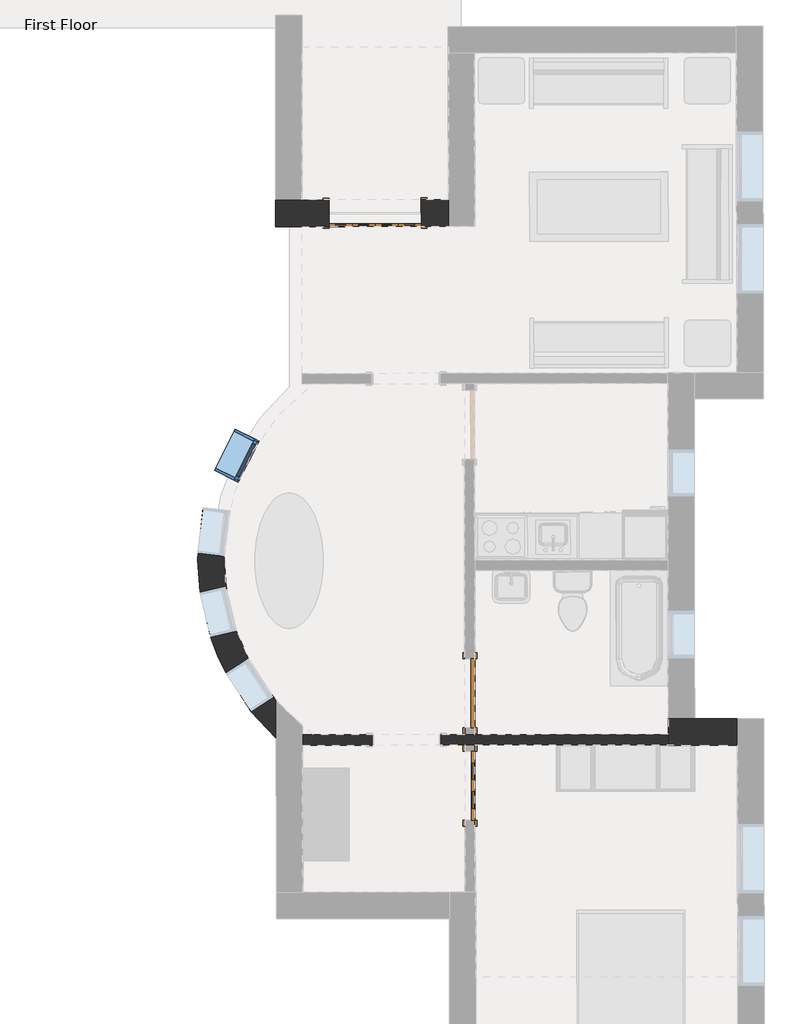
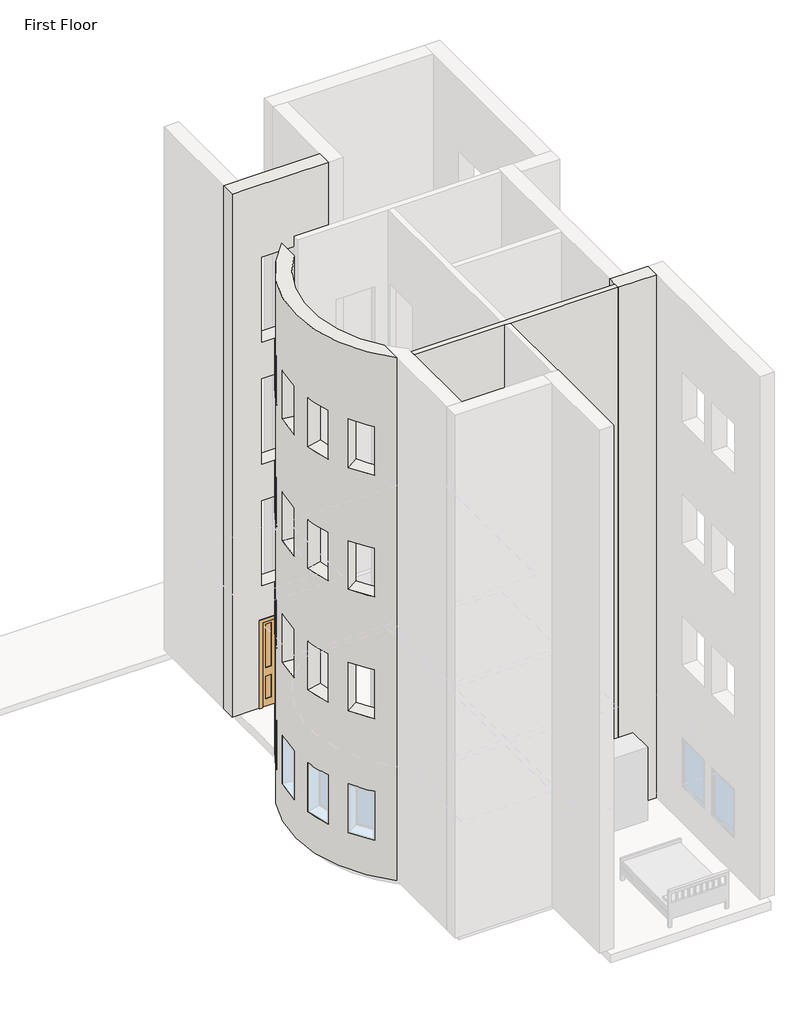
# One storey, part 12 of 23: 4 walls, 3 doors, 1 window.
"""IFC4 building model written with IfcOpenShell, lengths in millimetres."""

from ifc_helpers import new_model, si_unit, frame, origin, place, context, project, spatial, polyline, circle_curve, faceted_brep, transform, mapped, element, save
from ifc_brep_helpers import plane_surface, cylinder_surface, revolved_surface, advanced_brep
from components import m_bifold_4_panel_1220_x_2134mm_cde6dea2, m_single_decorative_2_0915_x_2134mm_0b11df3f, m_single_flush_0915_x_2134mm_08e0827a, m_fixed_0610_x_1220mm_2c28ef1d

model = new_model("IFC4")

# Units and contexts
model_context = context("Model", 3, world=origin())
ifc_project = project(units=[si_unit("LENGTHUNIT", "METRE", prefix="MILLI")], contexts=[model_context])

# Site, building, storey
site = spatial("IfcSite", under=ifc_project)
building = spatial("IfcBuilding", under=site)
storey = spatial("IfcBuildingStorey", under=building, Name="First Floor", Elevation=0.0)

# Doors
placement = place(None, origin())
m_bifold_4_panel_1220_x_2134mm_shape = m_bifold_4_panel_1220_x_2134mm_cde6dea2(model_context)
element("IfcDoor", 1, ObjectType="M_Bifold-4 Panel : 1220 x 2134mm", at=placement, inside=storey, context=model_context, shape_type="MappedRepresentation", body=[
    mapped(m_bifold_4_panel_1220_x_2134mm_shape, transform((-9050.8373063, -8240.6820888, 0.0), x_axis=(0.9999989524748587, 0.0014474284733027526, 0.0), y_axis=(-0.0014474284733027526, 0.9999989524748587, 0.0), z_axis=(0.0, 0.0, 1.0))),
])
m_single_decorative_2_0915_x_2134mm_shape = m_single_decorative_2_0915_x_2134mm_0b11df3f(model_context)
element("IfcDoor", 2, ObjectType="M_Single-Decorative 2 : 0915 x 2134mm", at=placement, inside=storey, context=model_context, shape_type="MappedRepresentation", body=[
    mapped(m_single_decorative_2_0915_x_2134mm_shape, transform((-7796.8898976, -15803.1250115, 0.0), x_axis=(-0.0014474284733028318, 0.9999989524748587, 0.0), y_axis=(-0.9999989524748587, -0.0014474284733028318, 0.0), z_axis=(0.0, 0.0, 1.0))),
])
m_single_flush_0915_x_2134mm_shape = m_single_flush_0915_x_2134mm_08e0827a(model_context)
element("IfcDoor", 3, ObjectType="M_Single-Flush : 0915 x 2134mm", at=placement, inside=storey, context=model_context, shape_type="MappedRepresentation", body=[
    mapped(m_single_flush_0915_x_2134mm_shape, transform((-7798.6557603, -14583.1262895, 0.0), x_axis=(0.0014474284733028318, -0.9999989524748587, 0.0), y_axis=(0.9999989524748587, 0.0014474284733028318, 0.0), z_axis=(0.0, 0.0, 1.0))),
])

# Walls
element("IfcWall", 4, ObjectType="Exterior - Brick on Mtl. Stud", at=placement, inside=storey, context=model_context, shape_type="Brep", body=[
    faceted_brep([(-4263.1691469, -14916.759275, 0.0), (-4827.5685557, -14917.5762036, 0.0), (-5177.5681891, -14918.0828036, 0.0), (-5177.5681891, -14918.0828036, 13107.0), (-4827.5685557, -14917.5762036, 13107.0), (-4263.1691469, -14916.759275, 13107.0), (-4262.662547, -15266.7589083, 0.0), (-4262.662547, -15266.7589083, 13107.0), (-5177.0615891, -15268.0824369, 13107.0), (-5177.0615891, -15268.0824369, 0.0), (-5177.072083, -15260.8324445, 0.0), (-5177.2682095, -15125.3325865, 0.0), (-5177.2682095, -15125.3325865, 13107.0), (-5177.072083, -15260.8324445, 13107.0)], [[[0, 1, 2, 3, 4, 5]], [[6, 7, 8, 9]], [[2, 1, 0, 6, 9, 10, 11]], [[5, 4, 3, 12, 13, 8, 7]], [[0, 5, 7, 6]], [[3, 2, 11, 10, 9, 8, 13, 12]]]),
])
element("IfcWall", 5, ObjectType="Exterior - Brick on Mtl. Stud", at=placement, inside=storey, context=model_context, shape_type="Brep", body=[
    faceted_brep([(-10369.0892257, -8067.5899829, 13107.0), (-10019.0916203, -8067.0833858, 13107.0), (-8083.0916203, -8064.2811614, 13107.0), (-8083.0916203, -8064.2811614, 0.0), (-8441.0912453, -8064.7993408, 0.0), (-8441.0912453, -8064.7993408, 2134.0), (-9661.0899673, -8066.5652035, 2134.0), (-9661.0899673, -8066.5652035, 0.0), (-10019.0916203, -8067.0833858, 0.0), (-10184.0894195, -8067.3222086, 0.0), (-10369.0892257, -8067.5899829, 0.0), (-8441.0912453, -8064.7993408, 9144.0), (-8441.0912453, -8064.7993408, 11278.0), (-9661.0899673, -8066.5652035, 11278.0), (-9661.0899673, -8066.5652035, 9144.0), (-8441.0912453, -8064.7993408, 3048.0), (-8441.0912453, -8064.7993408, 5182.0), (-9661.0899673, -8066.5652035, 5182.0), (-9661.0899673, -8066.5652035, 3048.0), (-8441.0912453, -8064.7993408, 6096.0), (-8441.0912453, -8064.7993408, 8230.0), (-9661.0899673, -8066.5652035, 8230.0), (-9661.0899673, -8066.5652035, 6096.0), (-8082.5850204, -8414.2807948, 13107.0), (-10018.5829924, -8417.0830163, 13107.0), (-10368.5826257, -8417.5896162, 13107.0), (-10368.5826257, -8417.5896162, 0.0), (-10183.5828195, -8417.321842, 0.0), (-10018.5829924, -8417.0830163, 0.0), (-9660.5833674, -8416.5648369, 0.0), (-9660.5833674, -8416.5648369, 2134.0), (-8440.5846453, -8414.7989741, 2134.0), (-8440.5846453, -8414.7989741, 0.0), (-8082.5850204, -8414.2807948, 0.0), (-8440.5846453, -8414.7989741, 9144.0), (-9660.5833674, -8416.5648369, 9144.0), (-9660.5833674, -8416.5648369, 11278.0), (-8440.5846453, -8414.7989741, 11278.0), (-8440.5846453, -8414.7989741, 3048.0), (-9660.5833674, -8416.5648369, 3048.0), (-9660.5833674, -8416.5648369, 5182.0), (-8440.5846453, -8414.7989741, 5182.0), (-8440.5846453, -8414.7989741, 6096.0), (-9660.5833674, -8416.5648369, 6096.0), (-9660.5833674, -8416.5648369, 8230.0), (-8440.5846453, -8414.7989741, 8230.0), (-8440.823471, -8249.799147, 0.0), (-9660.8221931, -8251.5650097, 0.0), (-10368.8214514, -8252.5897891, 0.0), (-10183.8216452, -8252.3220148, 0.0), (-8082.8238461, -8249.2809676, 0.0)], [[[0, 1, 2, 3, 4, 5, 6, 7, 8, 9, 10], [11, 12, 13, 14], [15, 16, 17, 18], [19, 20, 21, 22]], [[23, 24, 25, 26, 27, 28, 29, 30, 31, 32, 33], [34, 35, 36, 37], [38, 39, 40, 41], [42, 43, 44, 45]], [[2, 1, 0, 25, 24, 23]], [[31, 5, 4, 46, 32]], [[5, 31, 30, 6]], [[6, 30, 29, 47, 7]], [[27, 26, 48, 49]], [[49, 9, 8, 7, 47]], [[3, 50, 46, 4]], [[10, 9, 49, 48]], [[12, 11, 34, 37]], [[13, 12, 37, 36]], [[14, 13, 36, 35]], [[11, 14, 35, 34]], [[16, 15, 38, 41]], [[17, 16, 41, 40]], [[18, 17, 40, 39]], [[15, 18, 39, 38]], [[20, 19, 42, 45]], [[21, 20, 45, 44]], [[22, 21, 44, 43]], [[19, 22, 43, 42]], [[3, 2, 23, 33, 50]], [[0, 10, 48, 26, 25]], [[27, 49, 47, 29, 28]], [[50, 33, 32, 46]]]),
])
element("IfcWall", 6, ObjectType="Exterior - Brick on Mtl. Stud", at=placement, inside=storey, context=model_context, shape_type="AdvancedBrep", body=[
    advanced_brep(
    [(-10365.6395377, -10450.9093937, 13107.0), (-10358.7970277, -15178.2606268, 13107.0), (-10359.5284893, -14672.9086878, 13107.0), (-10364.9080761, -10956.2613328, 13107.0), (-10358.7970277, -15178.2606268, 0.0), (-10365.6395377, -10450.9093937, 0.0), (-10364.9080761, -10956.2613328, 0.0), (-10359.5284893, -14672.9086878, 0.0), (-10688.4725524, -14824.0876564, 915.0), (-11022.6046276, -14313.7389949, 915.0), (-11022.6046276, -14313.7389949, 2135.0), (-10688.4725524, -14824.0876564, 2135.0), (-11225.0349817, -13841.7363021, 2135.0), (-11225.0349817, -13841.7363021, 915.0), (-11364.4669047, -13247.8855306, 915.0), (-11364.4669047, -13247.8855306, 2135.0), (-11321.1690093, -12129.3871103, 915.0), (-11321.1690093, -12129.3871103, 2135.0), (-11393.2547862, -12735.1128244, 2135.0), (-11393.2547862, -12735.1128244, 915.0), (-10897.9333065, -11093.1511508, 915.0), (-10897.9333065, -11093.1511508, 2135.0), (-11172.8421746, -11637.6923468, 2135.0), (-11172.8421746, -11637.6923468, 915.0), (-11321.1690093, -12129.3871103, 10059.0), (-11321.1690093, -12129.3871103, 11279.0), (-11393.2547862, -12735.1128244, 11279.0), (-11393.2547862, -12735.1128244, 10059.0), (-10897.9333065, -11093.1511508, 10059.0), (-10897.9333065, -11093.1511508, 11279.0), (-11172.8421746, -11637.6923468, 11279.0), (-11172.8421746, -11637.6923468, 10059.0), (-11225.0349817, -13841.7363021, 11279.0), (-11225.0349817, -13841.7363021, 10059.0), (-11364.4669047, -13247.8855306, 10059.0), (-11364.4669047, -13247.8855306, 11279.0), (-10688.4725524, -14824.0876564, 11279.0), (-10688.4725524, -14824.0876564, 10059.0), (-11022.6046276, -14313.7389949, 10059.0), (-11022.6046276, -14313.7389949, 11279.0), (-11321.1690093, -12129.3871103, 3963.0), (-11321.1690093, -12129.3871103, 5183.0), (-11393.2547862, -12735.1128244, 5183.0), (-11393.2547862, -12735.1128244, 3963.0), (-10897.9333065, -11093.1511508, 3963.0), (-10897.9333065, -11093.1511508, 5183.0), (-11172.8421746, -11637.6923468, 5183.0), (-11172.8421746, -11637.6923468, 3963.0), (-11225.0349817, -13841.7363021, 5183.0), (-11225.0349817, -13841.7363021, 3963.0), (-11364.4669047, -13247.8855306, 3963.0), (-11364.4669047, -13247.8855306, 5183.0), (-10688.4725524, -14824.0876564, 5183.0), (-10688.4725524, -14824.0876564, 3963.0), (-11022.6046276, -14313.7389949, 3963.0), (-11022.6046276, -14313.7389949, 5183.0), (-11321.1690093, -12129.3871103, 7011.0), (-11321.1690093, -12129.3871103, 8231.0), (-11393.2547862, -12735.1128244, 8231.0), (-11393.2547862, -12735.1128244, 7011.0), (-10897.9333065, -11093.1511508, 7011.0), (-10897.9333065, -11093.1511508, 8231.0), (-11172.8421746, -11637.6923468, 8231.0), (-11172.8421746, -11637.6923468, 7011.0), (-11225.0349817, -13841.7363021, 8231.0), (-11225.0349817, -13841.7363021, 7011.0), (-11364.4669047, -13247.8855306, 7011.0), (-11364.4669047, -13247.8855306, 8231.0), (-10688.4725524, -14824.0876564, 8231.0), (-10688.4725524, -14824.0876564, 7011.0), (-11022.6046276, -14313.7389949, 7011.0), (-11022.6046276, -14313.7389949, 8231.0), (-10394.1674377, -14631.4021728, 915.0), (-10394.1674377, -14631.4021728, 2135.0), (-10728.2995129, -14121.0535112, 2135.0), (-10728.2995129, -14121.0535112, 915.0), (-10882.5763205, -13761.3294525, 915.0), (-10882.5763205, -13761.3294525, 2135.0), (-11022.0082435, -13167.4786809, 2135.0), (-11022.0082435, -13167.4786809, 915.0), (-10971.8623702, -12170.9571474, 2135.0), (-10971.8623702, -12170.9571474, 915.0), (-11043.948147, -12776.6828616, 915.0), (-11043.948147, -12776.6828616, 2135.0), (-10583.9102253, -11251.6841147, 2135.0), (-10583.9102253, -11251.6841147, 915.0), (-10858.8190935, -11796.2253108, 915.0), (-10858.8190935, -11796.2253108, 2135.0), (-10971.8623702, -12170.9571474, 11279.0), (-10971.8623702, -12170.9571474, 10059.0), (-11043.948147, -12776.6828616, 10059.0), (-11043.948147, -12776.6828616, 11279.0), (-10583.9102253, -11251.6841147, 11279.0), (-10583.9102253, -11251.6841147, 10059.0), (-10858.8190935, -11796.2253108, 10059.0), (-10858.8190935, -11796.2253108, 11279.0), (-10882.5763205, -13761.3294525, 10059.0), (-10882.5763205, -13761.3294525, 11279.0), (-11022.0082435, -13167.4786809, 11279.0), (-11022.0082435, -13167.4786809, 10059.0), (-10394.1674377, -14631.4021728, 10059.0), (-10394.1674377, -14631.4021728, 11279.0), (-10728.2995129, -14121.0535112, 11279.0), (-10728.2995129, -14121.0535112, 10059.0), (-10971.8623702, -12170.9571474, 5183.0), (-10971.8623702, -12170.9571474, 3963.0), (-11043.948147, -12776.6828616, 3963.0), (-11043.948147, -12776.6828616, 5183.0), (-10583.9102253, -11251.6841147, 5183.0), (-10583.9102253, -11251.6841147, 3963.0), (-10858.8190935, -11796.2253108, 3963.0), (-10858.8190935, -11796.2253108, 5183.0), (-10882.5763205, -13761.3294525, 3963.0), (-10882.5763205, -13761.3294525, 5183.0), (-11022.0082435, -13167.4786809, 5183.0), (-11022.0082435, -13167.4786809, 3963.0), (-10394.1674377, -14631.4021728, 3963.0), (-10394.1674377, -14631.4021728, 5183.0), (-10728.2995129, -14121.0535112, 5183.0), (-10728.2995129, -14121.0535112, 3963.0), (-10971.8623702, -12170.9571474, 8231.0), (-10971.8623702, -12170.9571474, 7011.0), (-11043.948147, -12776.6828616, 7011.0), (-11043.948147, -12776.6828616, 8231.0), (-10583.9102253, -11251.6841147, 8231.0), (-10583.9102253, -11251.6841147, 7011.0), (-10858.8190935, -11796.2253108, 7011.0), (-10858.8190935, -11796.2253108, 8231.0), (-10882.5763205, -13761.3294525, 7011.0), (-10882.5763205, -13761.3294525, 8231.0), (-11022.0082435, -13167.4786809, 8231.0), (-11022.0082435, -13167.4786809, 7011.0), (-10394.1674377, -14631.4021728, 7011.0), (-10394.1674377, -14631.4021728, 8231.0), (-10728.2995129, -14121.0535112, 8231.0), (-10728.2995129, -14121.0535112, 7011.0)],
    [
        (0, 1, circle_curve(frame((-8171.1580789, -12811.413604, 13107.0), z_axis=(0.0, 0.0, 1.0), x_axis=(-0.0014474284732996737, 0.9999989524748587, 0.0)), 3223.0)),
        (1, 2),
        (2, 3, circle_curve(frame((-8171.1580789, -12811.413604, 13107.0), z_axis=(0.0, 0.0, -1.0), x_axis=(-0.0014474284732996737, 0.9999989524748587, 0.0)), 2873.0)),
        (3, 0),
        (4, 5, circle_curve(frame((-8171.1580789, -12811.413604, 0.0), z_axis=(0.0, 0.0, -1.0), x_axis=(-0.0014474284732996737, 0.9999989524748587, 0.0)), 3223.0)),
        (5, 6),
        (6, 7, circle_curve(frame((-8171.1580789, -12811.413604, 0.0), z_axis=(0.0, 0.0, 1.0), x_axis=(-0.0014474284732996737, 0.9999989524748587, 0.0)), 2873.0)),
        (7, 4),
        (0, 5),
        (4, 1),
        (8, 9, circle_curve(frame((-8171.1580789, -12811.413604, 915.0), z_axis=(0.0, 0.0, -1.0), x_axis=(-0.0014474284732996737, 0.9999989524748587, 0.0)), 3223.0)),
        (9, 10),
        (10, 11, circle_curve(frame((-8171.1580789, -12811.413604, 2135.0), z_axis=(0.0, 0.0, 1.0), x_axis=(-0.0014474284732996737, 0.9999989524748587, 0.0)), 3223.0)),
        (11, 8),
        (12, 13),
        (13, 14, circle_curve(frame((-8171.1580789, -12811.413604, 915.0), z_axis=(0.0, 0.0, -1.0), x_axis=(-0.0014474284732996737, 0.9999989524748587, 0.0)), 3223.0)),
        (14, 15),
        (15, 12, circle_curve(frame((-8171.1580789, -12811.413604, 2135.0), z_axis=(0.0, 0.0, 1.0), x_axis=(-0.0014474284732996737, 0.9999989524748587, 0.0)), 3223.0)),
        (16, 17),
        (17, 18, circle_curve(frame((-8171.1580789, -12811.413604, 2135.0), z_axis=(0.0, 0.0, 1.0), x_axis=(-0.0014474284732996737, 0.9999989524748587, 0.0)), 3223.0)),
        (18, 19),
        (19, 16, circle_curve(frame((-8171.1580789, -12811.413604, 915.0), z_axis=(0.0, 0.0, -1.0), x_axis=(-0.0014474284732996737, 0.9999989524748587, 0.0)), 3223.0)),
        (20, 21),
        (21, 22, circle_curve(frame((-8171.1580789, -12811.413604, 2135.0), z_axis=(0.0, 0.0, 1.0), x_axis=(-0.0014474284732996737, 0.9999989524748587, 0.0)), 3223.0)),
        (22, 23),
        (23, 20, circle_curve(frame((-8171.1580789, -12811.413604, 915.0), z_axis=(0.0, 0.0, -1.0), x_axis=(-0.0014474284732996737, 0.9999989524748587, 0.0)), 3223.0)),
        (24, 25),
        (25, 26, circle_curve(frame((-8171.1580789, -12811.413604, 11279.0), z_axis=(0.0, 0.0, 1.0), x_axis=(-0.0014474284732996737, 0.9999989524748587, 0.0)), 3223.0)),
        (26, 27),
        (27, 24, circle_curve(frame((-8171.1580789, -12811.413604, 10059.0), z_axis=(0.0, 0.0, -1.0), x_axis=(-0.0014474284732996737, 0.9999989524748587, 0.0)), 3223.0)),
        (28, 29),
        (29, 30, circle_curve(frame((-8171.1580789, -12811.413604, 11279.0), z_axis=(0.0, 0.0, 1.0), x_axis=(-0.0014474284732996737, 0.9999989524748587, 0.0)), 3223.0)),
        (30, 31),
        (31, 28, circle_curve(frame((-8171.1580789, -12811.413604, 10059.0), z_axis=(0.0, 0.0, -1.0), x_axis=(-0.0014474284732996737, 0.9999989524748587, 0.0)), 3223.0)),
        (32, 33),
        (33, 34, circle_curve(frame((-8171.1580789, -12811.413604, 10059.0), z_axis=(0.0, 0.0, -1.0), x_axis=(-0.0014474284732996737, 0.9999989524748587, 0.0)), 3223.0)),
        (34, 35),
        (35, 32, circle_curve(frame((-8171.1580789, -12811.413604, 11279.0), z_axis=(0.0, 0.0, 1.0), x_axis=(-0.0014474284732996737, 0.9999989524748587, 0.0)), 3223.0)),
        (36, 37),
        (37, 38, circle_curve(frame((-8171.1580789, -12811.413604, 10059.0), z_axis=(0.0, 0.0, -1.0), x_axis=(-0.0014474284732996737, 0.9999989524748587, 0.0)), 3223.0)),
        (38, 39),
        (39, 36, circle_curve(frame((-8171.1580789, -12811.413604, 11279.0), z_axis=(0.0, 0.0, 1.0), x_axis=(-0.0014474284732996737, 0.9999989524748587, 0.0)), 3223.0)),
        (40, 41),
        (41, 42, circle_curve(frame((-8171.1580789, -12811.413604, 5183.0), z_axis=(0.0, 0.0, 1.0), x_axis=(-0.0014474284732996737, 0.9999989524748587, 0.0)), 3223.0)),
        (42, 43),
        (43, 40, circle_curve(frame((-8171.1580789, -12811.413604, 3963.0), z_axis=(0.0, 0.0, -1.0), x_axis=(-0.0014474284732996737, 0.9999989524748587, 0.0)), 3223.0)),
        (44, 45),
        (45, 46, circle_curve(frame((-8171.1580789, -12811.413604, 5183.0), z_axis=(0.0, 0.0, 1.0), x_axis=(-0.0014474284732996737, 0.9999989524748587, 0.0)), 3223.0)),
        (46, 47),
        (47, 44, circle_curve(frame((-8171.1580789, -12811.413604, 3963.0), z_axis=(0.0, 0.0, -1.0), x_axis=(-0.0014474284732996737, 0.9999989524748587, 0.0)), 3223.0)),
        (48, 49),
        (49, 50, circle_curve(frame((-8171.1580789, -12811.413604, 3963.0), z_axis=(0.0, 0.0, -1.0), x_axis=(-0.0014474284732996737, 0.9999989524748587, 0.0)), 3223.0)),
        (50, 51),
        (51, 48, circle_curve(frame((-8171.1580789, -12811.413604, 5183.0), z_axis=(0.0, 0.0, 1.0), x_axis=(-0.0014474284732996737, 0.9999989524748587, 0.0)), 3223.0)),
        (52, 53),
        (53, 54, circle_curve(frame((-8171.1580789, -12811.413604, 3963.0), z_axis=(0.0, 0.0, -1.0), x_axis=(-0.0014474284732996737, 0.9999989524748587, 0.0)), 3223.0)),
        (54, 55),
        (55, 52, circle_curve(frame((-8171.1580789, -12811.413604, 5183.0), z_axis=(0.0, 0.0, 1.0), x_axis=(-0.0014474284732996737, 0.9999989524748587, 0.0)), 3223.0)),
        (56, 57),
        (57, 58, circle_curve(frame((-8171.1580789, -12811.413604, 8231.0), z_axis=(0.0, 0.0, 1.0), x_axis=(-0.0014474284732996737, 0.9999989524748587, 0.0)), 3223.0)),
        (58, 59),
        (59, 56, circle_curve(frame((-8171.1580789, -12811.413604, 7011.0), z_axis=(0.0, 0.0, -1.0), x_axis=(-0.0014474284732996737, 0.9999989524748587, 0.0)), 3223.0)),
        (60, 61),
        (61, 62, circle_curve(frame((-8171.1580789, -12811.413604, 8231.0), z_axis=(0.0, 0.0, 1.0), x_axis=(-0.0014474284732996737, 0.9999989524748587, 0.0)), 3223.0)),
        (62, 63),
        (63, 60, circle_curve(frame((-8171.1580789, -12811.413604, 7011.0), z_axis=(0.0, 0.0, -1.0), x_axis=(-0.0014474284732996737, 0.9999989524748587, 0.0)), 3223.0)),
        (64, 65),
        (65, 66, circle_curve(frame((-8171.1580789, -12811.413604, 7011.0), z_axis=(0.0, 0.0, -1.0), x_axis=(-0.0014474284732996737, 0.9999989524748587, 0.0)), 3223.0)),
        (66, 67),
        (67, 64, circle_curve(frame((-8171.1580789, -12811.413604, 8231.0), z_axis=(0.0, 0.0, 1.0), x_axis=(-0.0014474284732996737, 0.9999989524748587, 0.0)), 3223.0)),
        (68, 69),
        (69, 70, circle_curve(frame((-8171.1580789, -12811.413604, 7011.0), z_axis=(0.0, 0.0, -1.0), x_axis=(-0.0014474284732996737, 0.9999989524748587, 0.0)), 3223.0)),
        (70, 71),
        (71, 68, circle_curve(frame((-8171.1580789, -12811.413604, 8231.0), z_axis=(0.0, 0.0, 1.0), x_axis=(-0.0014474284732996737, 0.9999989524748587, 0.0)), 3223.0)),
        (2, 7),
        (6, 3),
        (72, 73),
        (73, 74, circle_curve(frame((-8171.1580789, -12811.413604, 2135.0), z_axis=(0.0, 0.0, -1.0), x_axis=(-0.0014474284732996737, 0.9999989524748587, 0.0)), 2873.0)),
        (74, 75),
        (75, 72, circle_curve(frame((-8171.1580789, -12811.413604, 915.0), z_axis=(0.0, 0.0, 1.0), x_axis=(-0.0014474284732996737, 0.9999989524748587, 0.0)), 2873.0)),
        (76, 77),
        (77, 78, circle_curve(frame((-8171.1580789, -12811.413604, 2135.0), z_axis=(0.0, 0.0, -1.0), x_axis=(-0.0014474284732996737, 0.9999989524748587, 0.0)), 2873.0)),
        (78, 79),
        (79, 76, circle_curve(frame((-8171.1580789, -12811.413604, 915.0), z_axis=(0.0, 0.0, 1.0), x_axis=(-0.0014474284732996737, 0.9999989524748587, 0.0)), 2873.0)),
        (80, 81),
        (81, 82, circle_curve(frame((-8171.1580789, -12811.413604, 915.0), z_axis=(0.0, 0.0, 1.0), x_axis=(-0.0014474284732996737, 0.9999989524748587, 0.0)), 2873.0)),
        (82, 83),
        (83, 80, circle_curve(frame((-8171.1580789, -12811.413604, 2135.0), z_axis=(0.0, 0.0, -1.0), x_axis=(-0.0014474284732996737, 0.9999989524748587, 0.0)), 2873.0)),
        (84, 85),
        (85, 86, circle_curve(frame((-8171.1580789, -12811.413604, 915.0), z_axis=(0.0, 0.0, 1.0), x_axis=(-0.0014474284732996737, 0.9999989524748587, 0.0)), 2873.0)),
        (86, 87),
        (87, 84, circle_curve(frame((-8171.1580789, -12811.413604, 2135.0), z_axis=(0.0, 0.0, -1.0), x_axis=(-0.0014474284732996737, 0.9999989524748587, 0.0)), 2873.0)),
        (88, 89),
        (89, 90, circle_curve(frame((-8171.1580789, -12811.413604, 10059.0), z_axis=(0.0, 0.0, 1.0), x_axis=(-0.0014474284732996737, 0.9999989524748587, 0.0)), 2873.0)),
        (90, 91),
        (91, 88, circle_curve(frame((-8171.1580789, -12811.413604, 11279.0), z_axis=(0.0, 0.0, -1.0), x_axis=(-0.0014474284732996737, 0.9999989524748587, 0.0)), 2873.0)),
        (92, 93),
        (93, 94, circle_curve(frame((-8171.1580789, -12811.413604, 10059.0), z_axis=(0.0, 0.0, 1.0), x_axis=(-0.0014474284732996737, 0.9999989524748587, 0.0)), 2873.0)),
        (94, 95),
        (95, 92, circle_curve(frame((-8171.1580789, -12811.413604, 11279.0), z_axis=(0.0, 0.0, -1.0), x_axis=(-0.0014474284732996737, 0.9999989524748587, 0.0)), 2873.0)),
        (96, 97),
        (97, 98, circle_curve(frame((-8171.1580789, -12811.413604, 11279.0), z_axis=(0.0, 0.0, -1.0), x_axis=(-0.0014474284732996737, 0.9999989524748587, 0.0)), 2873.0)),
        (98, 99),
        (99, 96, circle_curve(frame((-8171.1580789, -12811.413604, 10059.0), z_axis=(0.0, 0.0, 1.0), x_axis=(-0.0014474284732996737, 0.9999989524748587, 0.0)), 2873.0)),
        (100, 101),
        (101, 102, circle_curve(frame((-8171.1580789, -12811.413604, 11279.0), z_axis=(0.0, 0.0, -1.0), x_axis=(-0.0014474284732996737, 0.9999989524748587, 0.0)), 2873.0)),
        (102, 103),
        (103, 100, circle_curve(frame((-8171.1580789, -12811.413604, 10059.0), z_axis=(0.0, 0.0, 1.0), x_axis=(-0.0014474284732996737, 0.9999989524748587, 0.0)), 2873.0)),
        (104, 105),
        (105, 106, circle_curve(frame((-8171.1580789, -12811.413604, 3963.0), z_axis=(0.0, 0.0, 1.0), x_axis=(-0.0014474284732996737, 0.9999989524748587, 0.0)), 2873.0)),
        (106, 107),
        (107, 104, circle_curve(frame((-8171.1580789, -12811.413604, 5183.0), z_axis=(0.0, 0.0, -1.0), x_axis=(-0.0014474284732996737, 0.9999989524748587, 0.0)), 2873.0)),
        (108, 109),
        (109, 110, circle_curve(frame((-8171.1580789, -12811.413604, 3963.0), z_axis=(0.0, 0.0, 1.0), x_axis=(-0.0014474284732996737, 0.9999989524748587, 0.0)), 2873.0)),
        (110, 111),
        (111, 108, circle_curve(frame((-8171.1580789, -12811.413604, 5183.0), z_axis=(0.0, 0.0, -1.0), x_axis=(-0.0014474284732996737, 0.9999989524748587, 0.0)), 2873.0)),
        (112, 113),
        (113, 114, circle_curve(frame((-8171.1580789, -12811.413604, 5183.0), z_axis=(0.0, 0.0, -1.0), x_axis=(-0.0014474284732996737, 0.9999989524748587, 0.0)), 2873.0)),
        (114, 115),
        (115, 112, circle_curve(frame((-8171.1580789, -12811.413604, 3963.0), z_axis=(0.0, 0.0, 1.0), x_axis=(-0.0014474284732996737, 0.9999989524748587, 0.0)), 2873.0)),
        (116, 117),
        (117, 118, circle_curve(frame((-8171.1580789, -12811.413604, 5183.0), z_axis=(0.0, 0.0, -1.0), x_axis=(-0.0014474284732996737, 0.9999989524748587, 0.0)), 2873.0)),
        (118, 119),
        (119, 116, circle_curve(frame((-8171.1580789, -12811.413604, 3963.0), z_axis=(0.0, 0.0, 1.0), x_axis=(-0.0014474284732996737, 0.9999989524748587, 0.0)), 2873.0)),
        (120, 121),
        (121, 122, circle_curve(frame((-8171.1580789, -12811.413604, 7011.0), z_axis=(0.0, 0.0, 1.0), x_axis=(-0.0014474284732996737, 0.9999989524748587, 0.0)), 2873.0)),
        (122, 123),
        (123, 120, circle_curve(frame((-8171.1580789, -12811.413604, 8231.0), z_axis=(0.0, 0.0, -1.0), x_axis=(-0.0014474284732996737, 0.9999989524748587, 0.0)), 2873.0)),
        (124, 125),
        (125, 126, circle_curve(frame((-8171.1580789, -12811.413604, 7011.0), z_axis=(0.0, 0.0, 1.0), x_axis=(-0.0014474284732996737, 0.9999989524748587, 0.0)), 2873.0)),
        (126, 127),
        (127, 124, circle_curve(frame((-8171.1580789, -12811.413604, 8231.0), z_axis=(0.0, 0.0, -1.0), x_axis=(-0.0014474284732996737, 0.9999989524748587, 0.0)), 2873.0)),
        (128, 129),
        (129, 130, circle_curve(frame((-8171.1580789, -12811.413604, 8231.0), z_axis=(0.0, 0.0, -1.0), x_axis=(-0.0014474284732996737, 0.9999989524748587, 0.0)), 2873.0)),
        (130, 131),
        (131, 128, circle_curve(frame((-8171.1580789, -12811.413604, 7011.0), z_axis=(0.0, 0.0, 1.0), x_axis=(-0.0014474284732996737, 0.9999989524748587, 0.0)), 2873.0)),
        (132, 133),
        (133, 134, circle_curve(frame((-8171.1580789, -12811.413604, 8231.0), z_axis=(0.0, 0.0, -1.0), x_axis=(-0.0014474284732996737, 0.9999989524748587, 0.0)), 2873.0)),
        (134, 135),
        (135, 132, circle_curve(frame((-8171.1580789, -12811.413604, 7011.0), z_axis=(0.0, 0.0, 1.0), x_axis=(-0.0014474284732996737, 0.9999989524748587, 0.0)), 2873.0)),
        (72, 8),
        (11, 73),
        (10, 74),
        (9, 75),
        (76, 13),
        (12, 77),
        (15, 78),
        (14, 79),
        (16, 81),
        (80, 17),
        (83, 18),
        (82, 19),
        (20, 85),
        (84, 21),
        (87, 22),
        (86, 23),
        (24, 89),
        (88, 25),
        (91, 26),
        (90, 27),
        (28, 93),
        (92, 29),
        (95, 30),
        (94, 31),
        (96, 33),
        (32, 97),
        (35, 98),
        (34, 99),
        (100, 37),
        (36, 101),
        (39, 102),
        (38, 103),
        (40, 105),
        (104, 41),
        (107, 42),
        (106, 43),
        (44, 109),
        (108, 45),
        (111, 46),
        (110, 47),
        (112, 49),
        (48, 113),
        (51, 114),
        (50, 115),
        (116, 53),
        (52, 117),
        (55, 118),
        (54, 119),
        (56, 121),
        (120, 57),
        (123, 58),
        (122, 59),
        (60, 125),
        (124, 61),
        (127, 62),
        (126, 63),
        (128, 65),
        (64, 129),
        (67, 130),
        (66, 131),
        (132, 69),
        (68, 133),
        (71, 134),
        (70, 135),
    ],
    [
        plane_surface(frame((-8175.8231409, -9588.4169802, 13107.0), z_axis=(0.0, 0.0, 1.0000000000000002), x_axis=(-0.9999989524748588, -0.0014474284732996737, 0.0))),
        plane_surface(frame((-8175.8231409, -9588.4169802, 0.0), z_axis=(0.0, 0.0, -1.0000000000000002), x_axis=(0.9999989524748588, 0.0014474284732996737, 0.0))),
        cylinder_surface(frame((-8171.1580789, -12811.413604, 0.0), z_axis=(0.0, 0.0, 1.0), x_axis=(-0.0014474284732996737, 0.9999989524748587, 0.0)), 3223.0),
        revolved_surface(polyline([(-8175.31654090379, -9938.41661353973, 0.0), (-8175.31654090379, -9938.41661353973, 13107.0)]), (-8171.1580789, -12811.413604, 0.0), (0.0, 0.0, -1.0)),
        plane_surface(frame((-10368.8359257, -8242.5897996, 0.0), z_axis=(0.9999989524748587, 0.0014474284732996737, 0.0), x_axis=(0.0014474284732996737, -0.9999989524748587, 0.0))),
        plane_surface(frame((-10355.6006397, -17386.580221, 0.0), z_axis=(0.9999989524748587, 0.0014474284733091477, 0.0), x_axis=(0.0014474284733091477, -0.9999989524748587, 0.0))),
        plane_surface(frame((-10394.1674377, -14631.4021728, 915.0), z_axis=(-0.547757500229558, 0.8366371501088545, 0.0), x_axis=(-0.8366371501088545, -0.547757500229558, 0.0))),
        plane_surface(frame((-10394.1674377, -14631.4021728, 2135.0), z_axis=(0.0, 0.0, -1.0), x_axis=(-0.8366371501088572, -0.5477575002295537, 0.0))),
        plane_surface(frame((-10728.2995129, -14121.0535112, 2135.0), z_axis=(0.5477575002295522, -0.8366371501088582, 0.0), x_axis=(-0.8366371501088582, -0.5477575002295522, 0.0))),
        plane_surface(frame((-10728.2995129, -14121.0535112, 915.0), z_axis=(0.0, 0.0, 1.0), x_axis=(-0.8366371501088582, -0.5477575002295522, 0.0))),
        plane_surface(frame((-12708.6883847, -14190.0875327, 915.0), z_axis=(-0.2285769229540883, 0.9735258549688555, 0.0), x_axis=(0.9735258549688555, 0.2285769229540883, 0.0))),
        plane_surface(frame((-12708.6883847, -14190.0875327, 2135.0), z_axis=(0.0, 0.0, -1.0), x_axis=(0.9735258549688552, 0.22857692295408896, 0.0))),
        plane_surface(frame((-12848.1203077, -13596.2367612, 2135.0), z_axis=(0.2285769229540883, -0.9735258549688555, 0.0), x_axis=(0.9735258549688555, 0.2285769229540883, 0.0))),
        plane_surface(frame((-12848.1203077, -13596.2367612, 915.0), z_axis=(0.0, 0.0, 1.0000000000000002), x_axis=(0.9735258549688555, 0.2285769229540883, 0.0))),
        plane_surface(frame((-11321.1690093, -12129.3871103, 915.0), z_axis=(-0.11817340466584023, -0.9929929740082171, 0.0), x_axis=(0.9929929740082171, -0.11817340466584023, 0.0))),
        plane_surface(frame((-11321.1690093, -12129.3871103, 2135.0), z_axis=(0.0, 0.0, -1.0), x_axis=(0.9929929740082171, -0.11817340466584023, 0.0))),
        plane_surface(frame((-11393.2547862, -12735.1128244, 2135.0), z_axis=(0.11817340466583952, 0.9929929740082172, 0.0), x_axis=(0.9929929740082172, -0.11817340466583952, 0.0))),
        plane_surface(frame((-11393.2547862, -12735.1128244, 915.0), z_axis=(0.0, 0.0, 1.0000000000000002), x_axis=(0.9929929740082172, -0.11817340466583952, 0.0))),
        plane_surface(frame((-10897.9333065, -11093.1511508, 915.0), z_axis=(-0.4506702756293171, -0.8926904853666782, 0.0), x_axis=(0.8926904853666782, -0.4506702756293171, 0.0))),
        plane_surface(frame((-10897.9333065, -11093.1511508, 2135.0), z_axis=(0.0, 0.0, -1.0), x_axis=(0.8926904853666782, -0.4506702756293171, 0.0))),
        plane_surface(frame((-11172.8421746, -11637.6923468, 2135.0), z_axis=(0.45067027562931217, 0.8926904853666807, 0.0), x_axis=(0.8926904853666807, -0.45067027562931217, 0.0))),
        plane_surface(frame((-11172.8421746, -11637.6923468, 915.0), z_axis=(0.0, 0.0, 1.0000000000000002), x_axis=(0.8926904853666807, -0.45067027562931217, 0.0))),
        plane_surface(frame((-11321.1690093, -12129.3871103, 10059.0), z_axis=(-0.11817340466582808, -0.9929929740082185, 0.0), x_axis=(0.9929929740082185, -0.11817340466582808, 0.0))),
        plane_surface(frame((-11321.1690093, -12129.3871103, 11279.0), z_axis=(0.0, 0.0, -1.0000000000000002), x_axis=(0.9929929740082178, -0.11817340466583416, 0.0))),
        plane_surface(frame((-11393.2547862, -12735.1128244, 11279.0), z_axis=(0.11817340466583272, 0.992992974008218, 0.0), x_axis=(0.992992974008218, -0.11817340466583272, 0.0))),
        plane_surface(frame((-11393.2547862, -12735.1128244, 10059.0), z_axis=(0.0, 0.0, 1.0), x_axis=(0.992992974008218, -0.11817340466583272, 0.0))),
        plane_surface(frame((-10897.9333065, -11093.1511508, 10059.0), z_axis=(-0.4506702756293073, -0.892690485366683, 0.0), x_axis=(0.892690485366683, -0.4506702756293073, 0.0))),
        plane_surface(frame((-10897.9333065, -11093.1511508, 11279.0), z_axis=(0.0, 0.0, -1.0), x_axis=(0.892690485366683, -0.4506702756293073, 0.0))),
        plane_surface(frame((-11172.8421746, -11637.6923468, 11279.0), z_axis=(0.4506702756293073, 0.8926904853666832, 0.0), x_axis=(0.8926904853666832, -0.4506702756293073, 0.0))),
        plane_surface(frame((-11172.8421746, -11637.6923468, 10059.0), z_axis=(0.0, 0.0, 1.0000000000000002), x_axis=(0.8926904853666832, -0.4506702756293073, 0.0))),
        plane_surface(frame((-10882.5763205, -13761.3294525, 10059.0), z_axis=(-0.22857692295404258, 0.9735258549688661, 0.0), x_axis=(-0.9735258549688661, -0.22857692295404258, 0.0))),
        plane_surface(frame((-10882.5763205, -13761.3294525, 11279.0), z_axis=(0.0, 0.0, -1.0), x_axis=(-0.9735258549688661, -0.22857692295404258, 0.0))),
        plane_surface(frame((-11022.0082435, -13167.4786809, 11279.0), z_axis=(0.22857692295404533, -0.9735258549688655, 0.0), x_axis=(-0.9735258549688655, -0.22857692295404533, 0.0))),
        plane_surface(frame((-11022.0082435, -13167.4786809, 10059.0), z_axis=(0.0, 0.0, 1.0), x_axis=(-0.9735258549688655, -0.22857692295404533, 0.0))),
        plane_surface(frame((-10394.1674377, -14631.4021728, 10059.0), z_axis=(-0.547757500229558, 0.8366371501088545, 0.0), x_axis=(-0.8366371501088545, -0.547757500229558, 0.0))),
        plane_surface(frame((-10394.1674377, -14631.4021728, 11279.0), z_axis=(0.0, 0.0, -1.0000000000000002), x_axis=(-0.8366371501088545, -0.547757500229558, 0.0))),
        plane_surface(frame((-10728.2995129, -14121.0535112, 11279.0), z_axis=(0.5477575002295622, -0.8366371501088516, 0.0), x_axis=(-0.8366371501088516, -0.5477575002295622, 0.0))),
        plane_surface(frame((-10728.2995129, -14121.0535112, 10059.0), z_axis=(0.0, 0.0, 1.0), x_axis=(-0.8366371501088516, -0.5477575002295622, 0.0))),
        plane_surface(frame((-11321.1690093, -12129.3871103, 3963.0), z_axis=(-0.11817340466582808, -0.9929929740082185, 0.0), x_axis=(0.9929929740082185, -0.11817340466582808, 0.0))),
        plane_surface(frame((-11321.1690093, -12129.3871103, 5183.0), z_axis=(0.0, 0.0, -1.0000000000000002), x_axis=(0.9929929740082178, -0.11817340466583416, 0.0))),
        plane_surface(frame((-11393.2547862, -12735.1128244, 5183.0), z_axis=(0.11817340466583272, 0.992992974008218, 0.0), x_axis=(0.992992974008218, -0.11817340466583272, 0.0))),
        plane_surface(frame((-11393.2547862, -12735.1128244, 3963.0), z_axis=(0.0, 0.0, 1.0), x_axis=(0.992992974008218, -0.11817340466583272, 0.0))),
        plane_surface(frame((-10897.9333065, -11093.1511508, 3963.0), z_axis=(-0.4506702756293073, -0.892690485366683, 0.0), x_axis=(0.892690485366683, -0.4506702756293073, 0.0))),
        plane_surface(frame((-10897.9333065, -11093.1511508, 5183.0), z_axis=(0.0, 0.0, -1.0), x_axis=(0.892690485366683, -0.4506702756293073, 0.0))),
        plane_surface(frame((-11172.8421746, -11637.6923468, 5183.0), z_axis=(0.4506702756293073, 0.8926904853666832, 0.0), x_axis=(0.8926904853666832, -0.4506702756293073, 0.0))),
        plane_surface(frame((-11172.8421746, -11637.6923468, 3963.0), z_axis=(0.0, 0.0, 1.0000000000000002), x_axis=(0.8926904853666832, -0.4506702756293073, 0.0))),
        plane_surface(frame((-10882.5763205, -13761.3294525, 3963.0), z_axis=(-0.22857692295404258, 0.9735258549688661, 0.0), x_axis=(-0.9735258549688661, -0.22857692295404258, 0.0))),
        plane_surface(frame((-10882.5763205, -13761.3294525, 5183.0), z_axis=(0.0, 0.0, -1.0), x_axis=(-0.9735258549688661, -0.22857692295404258, 0.0))),
        plane_surface(frame((-11022.0082435, -13167.4786809, 5183.0), z_axis=(0.22857692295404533, -0.9735258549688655, 0.0), x_axis=(-0.9735258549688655, -0.22857692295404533, 0.0))),
        plane_surface(frame((-11022.0082435, -13167.4786809, 3963.0), z_axis=(0.0, 0.0, 1.0), x_axis=(-0.9735258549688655, -0.22857692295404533, 0.0))),
        plane_surface(frame((-10394.1674377, -14631.4021728, 3963.0), z_axis=(-0.547757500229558, 0.8366371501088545, 0.0), x_axis=(-0.8366371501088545, -0.547757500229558, 0.0))),
        plane_surface(frame((-10394.1674377, -14631.4021728, 5183.0), z_axis=(0.0, 0.0, -1.0000000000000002), x_axis=(-0.8366371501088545, -0.547757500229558, 0.0))),
        plane_surface(frame((-10728.2995129, -14121.0535112, 5183.0), z_axis=(0.5477575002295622, -0.8366371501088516, 0.0), x_axis=(-0.8366371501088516, -0.5477575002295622, 0.0))),
        plane_surface(frame((-10728.2995129, -14121.0535112, 3963.0), z_axis=(0.0, 0.0, 1.0), x_axis=(-0.8366371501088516, -0.5477575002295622, 0.0))),
        plane_surface(frame((-11321.1690093, -12129.3871103, 7011.0), z_axis=(-0.11817340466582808, -0.9929929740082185, 0.0), x_axis=(0.9929929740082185, -0.11817340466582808, 0.0))),
        plane_surface(frame((-11321.1690093, -12129.3871103, 8231.0), z_axis=(0.0, 0.0, -1.0000000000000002), x_axis=(0.9929929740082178, -0.11817340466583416, 0.0))),
        plane_surface(frame((-11393.2547862, -12735.1128244, 8231.0), z_axis=(0.11817340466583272, 0.992992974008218, 0.0), x_axis=(0.992992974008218, -0.11817340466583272, 0.0))),
        plane_surface(frame((-11393.2547862, -12735.1128244, 7011.0), z_axis=(0.0, 0.0, 1.0), x_axis=(0.992992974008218, -0.11817340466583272, 0.0))),
        plane_surface(frame((-10897.9333065, -11093.1511508, 7011.0), z_axis=(-0.4506702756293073, -0.892690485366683, 0.0), x_axis=(0.892690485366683, -0.4506702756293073, 0.0))),
        plane_surface(frame((-10897.9333065, -11093.1511508, 8231.0), z_axis=(0.0, 0.0, -1.0), x_axis=(0.892690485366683, -0.4506702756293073, 0.0))),
        plane_surface(frame((-11172.8421746, -11637.6923468, 8231.0), z_axis=(0.4506702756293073, 0.8926904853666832, 0.0), x_axis=(0.8926904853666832, -0.4506702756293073, 0.0))),
        plane_surface(frame((-11172.8421746, -11637.6923468, 7011.0), z_axis=(0.0, 0.0, 1.0000000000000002), x_axis=(0.8926904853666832, -0.4506702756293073, 0.0))),
        plane_surface(frame((-10882.5763205, -13761.3294525, 7011.0), z_axis=(-0.22857692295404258, 0.9735258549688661, 0.0), x_axis=(-0.9735258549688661, -0.22857692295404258, 0.0))),
        plane_surface(frame((-10882.5763205, -13761.3294525, 8231.0), z_axis=(0.0, 0.0, -1.0), x_axis=(-0.9735258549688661, -0.22857692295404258, 0.0))),
        plane_surface(frame((-11022.0082435, -13167.4786809, 8231.0), z_axis=(0.22857692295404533, -0.9735258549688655, 0.0), x_axis=(-0.9735258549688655, -0.22857692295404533, 0.0))),
        plane_surface(frame((-11022.0082435, -13167.4786809, 7011.0), z_axis=(0.0, 0.0, 1.0), x_axis=(-0.9735258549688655, -0.22857692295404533, 0.0))),
        plane_surface(frame((-10394.1674377, -14631.4021728, 7011.0), z_axis=(-0.547757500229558, 0.8366371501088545, 0.0), x_axis=(-0.8366371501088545, -0.547757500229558, 0.0))),
        plane_surface(frame((-10394.1674377, -14631.4021728, 8231.0), z_axis=(0.0, 0.0, -1.0000000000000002), x_axis=(-0.8366371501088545, -0.547757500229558, 0.0))),
        plane_surface(frame((-10728.2995129, -14121.0535112, 8231.0), z_axis=(0.5477575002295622, -0.8366371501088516, 0.0), x_axis=(-0.8366371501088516, -0.5477575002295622, 0.0))),
        plane_surface(frame((-10728.2995129, -14121.0535112, 7011.0), z_axis=(0.0, 0.0, 1.0), x_axis=(-0.8366371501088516, -0.5477575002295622, 0.0))),
    ],
    [
        (0, [[1, 2, 3, 4]]),
        (1, [[5, 6, 7, 8]]),
        (2, [[-1, 9, -5, 10], [11, 12, 13, 14], [15, 16, 17, 18], [19, 20, 21, 22], [23, 24, 25, 26], [27, 28, 29, 30], [31, 32, 33, 34], [35, 36, 37, 38], [39, 40, 41, 42], [43, 44, 45, 46], [47, 48, 49, 50], [51, 52, 53, 54], [55, 56, 57, 58], [59, 60, 61, 62], [63, 64, 65, 66], [67, 68, 69, 70], [71, 72, 73, 74]]),
        (3, [[-3, 75, -7, 76], [77, 78, 79, 80], [81, 82, 83, 84], [85, 86, 87, 88], [89, 90, 91, 92], [93, 94, 95, 96], [97, 98, 99, 100], [101, 102, 103, 104], [105, 106, 107, 108], [109, 110, 111, 112], [113, 114, 115, 116], [117, 118, 119, 120], [121, 122, 123, 124], [125, 126, 127, 128], [129, 130, 131, 132], [133, 134, 135, 136], [137, 138, 139, 140]]),
        (4, [[-4, -76, -6, -9]]),
        (5, [[-2, -10, -8, -75]]),
        (6, [[-77, 141, -14, 142]]),
        (7, [[-78, -142, -13, 143]]),
        (8, [[-79, -143, -12, 144]]),
        (9, [[-80, -144, -11, -141]]),
        (10, [[145, -15, 146, -81]]),
        (11, [[-146, -18, 147, -82]]),
        (12, [[-147, -17, 148, -83]]),
        (13, [[-145, -84, -148, -16]]),
        (14, [[-19, 149, -85, 150]]),
        (15, [[-20, -150, -88, 151]]),
        (16, [[-21, -151, -87, 152]]),
        (17, [[-22, -152, -86, -149]]),
        (18, [[-23, 153, -89, 154]]),
        (19, [[-24, -154, -92, 155]]),
        (20, [[-25, -155, -91, 156]]),
        (21, [[-26, -156, -90, -153]]),
        (22, [[-27, 157, -93, 158]]),
        (23, [[-28, -158, -96, 159]]),
        (24, [[-29, -159, -95, 160]]),
        (25, [[-30, -160, -94, -157]]),
        (26, [[-31, 161, -97, 162]]),
        (27, [[-32, -162, -100, 163]]),
        (28, [[-33, -163, -99, 164]]),
        (29, [[-34, -164, -98, -161]]),
        (30, [[-101, 165, -35, 166]]),
        (31, [[-102, -166, -38, 167]]),
        (32, [[-103, -167, -37, 168]]),
        (33, [[-104, -168, -36, -165]]),
        (34, [[-105, 169, -39, 170]]),
        (35, [[-106, -170, -42, 171]]),
        (36, [[-107, -171, -41, 172]]),
        (37, [[-108, -172, -40, -169]]),
        (38, [[-43, 173, -109, 174]]),
        (39, [[-44, -174, -112, 175]]),
        (40, [[-45, -175, -111, 176]]),
        (41, [[-46, -176, -110, -173]]),
        (42, [[-47, 177, -113, 178]]),
        (43, [[-48, -178, -116, 179]]),
        (44, [[-49, -179, -115, 180]]),
        (45, [[-50, -180, -114, -177]]),
        (46, [[-117, 181, -51, 182]]),
        (47, [[-118, -182, -54, 183]]),
        (48, [[-119, -183, -53, 184]]),
        (49, [[-120, -184, -52, -181]]),
        (50, [[-121, 185, -55, 186]]),
        (51, [[-122, -186, -58, 187]]),
        (52, [[-123, -187, -57, 188]]),
        (53, [[-124, -188, -56, -185]]),
        (54, [[-59, 189, -125, 190]]),
        (55, [[-60, -190, -128, 191]]),
        (56, [[-61, -191, -127, 192]]),
        (57, [[-62, -192, -126, -189]]),
        (58, [[-63, 193, -129, 194]]),
        (59, [[-64, -194, -132, 195]]),
        (60, [[-65, -195, -131, 196]]),
        (61, [[-66, -196, -130, -193]]),
        (62, [[-133, 197, -67, 198]]),
        (63, [[-134, -198, -70, 199]]),
        (64, [[-135, -199, -69, 200]]),
        (65, [[-136, -200, -68, -197]]),
        (66, [[-137, 201, -71, 202]]),
        (67, [[-138, -202, -74, 203]]),
        (68, [[-139, -203, -73, 204]]),
        (69, [[-140, -204, -72, -201]]),
    ],
),
])
element("IfcWall", 7, ObjectType="Interior - 135mm Partition (2-hr)", at=placement, inside=storey, context=model_context, shape_type="Brep", body=[
    faceted_brep([(-9093.5641071, -15131.0011506, 2134.0), (-9093.5641071, -15131.0011506, 0.0), (-10008.8631483, -15132.3259819, 0.0), (-10008.8631483, -15132.3259819, 13107.0), (-7865.6153934, -15129.2237808, 13107.0), (-7730.1155353, -15129.0276542, 13107.0), (-5177.2682095, -15125.3325865, 13107.0), (-5177.2682095, -15125.3325865, 0.0), (-7730.1155353, -15129.0276542, 0.0), (-7865.6153934, -15129.2237808, 0.0), (-8178.5650656, -15129.6767535, 0.0), (-8178.5650656, -15129.6767535, 2134.0), (-8178.5650656, -15129.6767535, 11278.0), (-9093.5641071, -15131.0011506, 11278.0), (-9093.5641071, -15131.0011506, 9144.0), (-8178.5650656, -15129.6767535, 9144.0), (-8178.5650656, -15129.6767535, 5182.0), (-9093.5641071, -15131.0011506, 5182.0), (-9093.5641071, -15131.0011506, 3048.0), (-8178.5650656, -15129.6767535, 3048.0), (-8178.5650656, -15129.6767535, 8230.0), (-9093.5641071, -15131.0011506, 8230.0), (-9093.5641071, -15131.0011506, 6096.0), (-8178.5650656, -15129.6767535, 6096.0), (-10008.6670217, -15267.8258399, 0.0), (-9093.3679805, -15266.5010087, 0.0), (-9093.3679805, -15266.5010087, 2134.0), (-8178.368939, -15265.1766116, 2134.0), (-8178.368939, -15265.1766116, 0.0), (-7865.4192668, -15264.7236389, 0.0), (-7729.9194088, -15264.5275123, 0.0), (-5177.072083, -15260.8324445, 0.0), (-5177.072083, -15260.8324445, 13107.0), (-7729.9194088, -15264.5275123, 13107.0), (-7865.4192668, -15264.7236389, 13107.0), (-10008.6670217, -15267.8258399, 13107.0), (-8178.368939, -15265.1766116, 11278.0), (-8178.368939, -15265.1766116, 9144.0), (-9093.3679805, -15266.5010087, 9144.0), (-9093.3679805, -15266.5010087, 11278.0), (-8178.368939, -15265.1766116, 5182.0), (-8178.368939, -15265.1766116, 3048.0), (-9093.3679805, -15266.5010087, 3048.0), (-9093.3679805, -15266.5010087, 5182.0), (-8178.368939, -15265.1766116, 8230.0), (-8178.368939, -15265.1766116, 6096.0), (-9093.3679805, -15266.5010087, 6096.0), (-9093.3679805, -15266.5010087, 8230.0)], [[[0, 1, 2, 3, 4, 5, 6, 7, 8, 9, 10, 11], [12, 13, 14, 15], [16, 17, 18, 19], [20, 21, 22, 23]], [[24, 25, 26, 27, 28, 29, 30, 31, 32, 33, 34, 35], [36, 37, 38, 39], [40, 41, 42, 43], [44, 45, 46, 47]], [[2, 1, 25, 24]], [[10, 9, 8, 7, 31, 30, 29, 28]], [[6, 5, 4, 3, 35, 34, 33, 32]], [[7, 6, 32, 31]], [[3, 2, 24, 35]], [[28, 27, 11, 10]], [[26, 25, 1, 0]], [[27, 26, 0, 11]], [[37, 36, 12, 15]], [[38, 37, 15, 14]], [[39, 38, 14, 13]], [[36, 39, 13, 12]], [[41, 40, 16, 19]], [[42, 41, 19, 18]], [[43, 42, 18, 17]], [[40, 43, 17, 16]], [[45, 44, 20, 23]], [[46, 45, 23, 22]], [[47, 46, 22, 21]], [[44, 47, 21, 20]]]),
])

# Window
m_fixed_0610_x_1220mm_shape = m_fixed_0610_x_1220mm_2c28ef1d(model_context)
element("IfcWindow", 8, ObjectType="M_Fixed : 0610 x 1220mm", at=placement, inside=storey, context=model_context, shape_type="MappedRepresentation", body=[
    mapped(m_fixed_0610_x_1220mm_shape, transform((-10890.7718819, -11438.4303335, 0.0), x_axis=(-0.4506702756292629, -0.8926904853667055, 0.0), y_axis=(0.8926904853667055, -0.4506702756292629, 0.0), z_axis=(0.0, 0.0, 1.0))),
])

save(model, "model.ifc")
